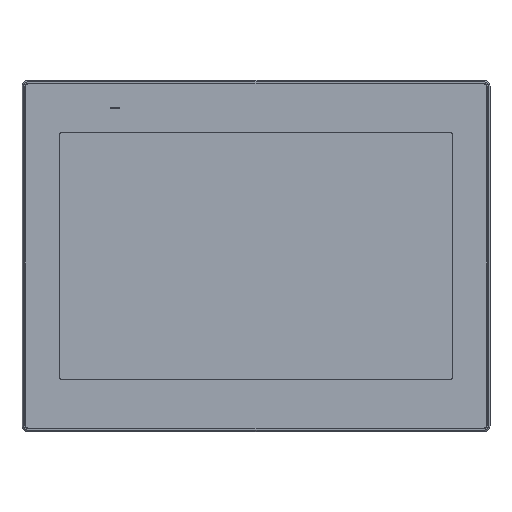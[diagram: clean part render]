
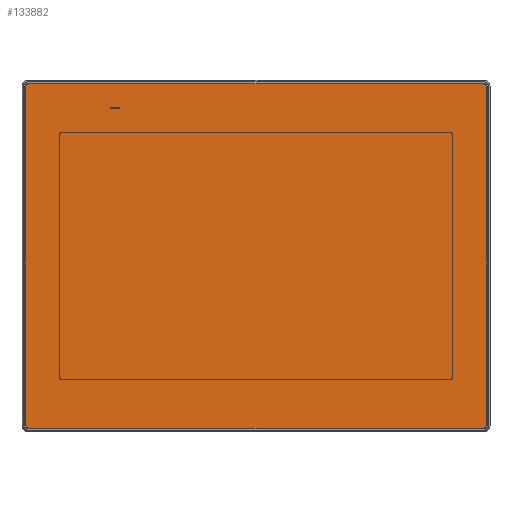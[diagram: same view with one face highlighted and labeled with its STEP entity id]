
A CAD part, top view. The second image highlights one B-rep face of the part: STEP entity #133882.
In plain terms, the highlighted planar face has unit normal (0, 0, 1).
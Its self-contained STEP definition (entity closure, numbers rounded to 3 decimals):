
#14159=CARTESIAN_POINT('',(-152.15,113.15,5.848));
#14160=DIRECTION('',(0.,0.,-1.));
#14161=DIRECTION('',(-1.,0.,0.));
#14162=AXIS2_PLACEMENT_3D('',#14159,#14160,#14161);
#14164=DIRECTION('',(1.,0.,0.));
#14165=VECTOR('',#14164,304.3);
#14166=CARTESIAN_POINT('',(-152.15,115.15,5.848));
#14167=LINE('',#14166,#14165);
#14168=CARTESIAN_POINT('',(152.15,113.15,5.848));
#14169=DIRECTION('',(0.,0.,-1.));
#14170=DIRECTION('',(0.,1.,0.));
#14171=AXIS2_PLACEMENT_3D('',#14168,#14169,#14170);
#14173=DIRECTION('',(0.,-1.,0.));
#14174=VECTOR('',#14173,226.3);
#14175=CARTESIAN_POINT('',(154.15,113.15,5.848));
#14176=LINE('',#14175,#14174);
#14177=CARTESIAN_POINT('',(152.15,-113.15,5.848));
#14178=DIRECTION('',(0.,0.,-1.));
#14179=DIRECTION('',(1.,0.,0.));
#14180=AXIS2_PLACEMENT_3D('',#14177,#14178,#14179);
#14182=DIRECTION('',(-1.,0.,0.));
#14183=VECTOR('',#14182,304.3);
#14184=CARTESIAN_POINT('',(152.15,-115.15,5.848));
#14185=LINE('',#14184,#14183);
#14186=CARTESIAN_POINT('',(-152.15,-113.15,5.848));
#14187=DIRECTION('',(0.,0.,-1.));
#14188=DIRECTION('',(0.,-1.,0.));
#14189=AXIS2_PLACEMENT_3D('',#14186,#14187,#14188);
#14191=DIRECTION('',(0.,1.,0.));
#14192=VECTOR('',#14191,226.3);
#14193=CARTESIAN_POINT('',(-154.15,-113.15,5.848));
#14194=LINE('',#14193,#14192);
#14195=DIRECTION('',(-1.,0.,0.));
#14196=VECTOR('',#14195,6.5);
#14197=CARTESIAN_POINT('',(-91.01,98.5,5.848));
#14198=LINE('',#14197,#14196);
#14203=DIRECTION('',(0.,-1.,0.));
#14204=VECTOR('',#14203,1.);
#14205=CARTESIAN_POINT('',(-91.01,99.5,5.848));
#14206=LINE('',#14205,#14204);
#14215=DIRECTION('',(0.,1.,0.));
#14216=VECTOR('',#14215,1.);
#14217=CARTESIAN_POINT('',(-97.51,98.5,5.848));
#14218=LINE('',#14217,#14216);
#14239=DIRECTION('',(1.,0.,0.));
#14240=VECTOR('',#14239,6.5);
#14241=CARTESIAN_POINT('',(-97.51,99.5,5.848));
#14242=LINE('',#14241,#14240);
#98946=CARTESIAN_POINT('',(-152.15,115.15,5.848));
#98947=VERTEX_POINT('',#98946);
#98948=CARTESIAN_POINT('',(-154.15,113.15,5.848));
#98949=VERTEX_POINT('',#98948);
#98950=CARTESIAN_POINT('',(152.15,115.15,5.848));
#98951=VERTEX_POINT('',#98950);
#98952=CARTESIAN_POINT('',(154.15,113.15,5.848));
#98953=VERTEX_POINT('',#98952);
#98954=CARTESIAN_POINT('',(154.15,-113.15,5.848));
#98955=VERTEX_POINT('',#98954);
#98956=CARTESIAN_POINT('',(152.15,-115.15,5.848));
#98957=VERTEX_POINT('',#98956);
#98958=CARTESIAN_POINT('',(-152.15,-115.15,5.848));
#98959=VERTEX_POINT('',#98958);
#98960=CARTESIAN_POINT('',(-154.15,-113.15,5.848));
#98961=VERTEX_POINT('',#98960);
#98962=CARTESIAN_POINT('',(-91.01,98.5,5.848));
#98963=CARTESIAN_POINT('',(-97.51,98.5,5.848));
#98964=VERTEX_POINT('',#98962);
#98965=VERTEX_POINT('',#98963);
#98966=CARTESIAN_POINT('',(-91.01,99.5,5.848));
#98967=VERTEX_POINT('',#98966);
#98968=CARTESIAN_POINT('',(-97.51,99.5,5.848));
#98969=VERTEX_POINT('',#98968);
#133857=CARTESIAN_POINT('',(0.,0.,5.848));
#133858=DIRECTION('',(0.,0.,1.));
#133859=DIRECTION('',(1.,0.,0.));
#133860=AXIS2_PLACEMENT_3D('',#133857,#133858,#133859);
#133861=PLANE('',#133860);
#133862=ORIENTED_EDGE('',*,*,#133753,.T.);
#133863=ORIENTED_EDGE('',*,*,#133768,.T.);
#133864=ORIENTED_EDGE('',*,*,#133782,.T.);
#133865=ORIENTED_EDGE('',*,*,#133796,.T.);
#133866=ORIENTED_EDGE('',*,*,#133810,.T.);
#133867=ORIENTED_EDGE('',*,*,#133824,.T.);
#133868=ORIENTED_EDGE('',*,*,#133838,.T.);
#133869=ORIENTED_EDGE('',*,*,#133851,.T.);
#133870=EDGE_LOOP('',(#133862,#133863,#133864,#133865,#133866,#133867,#133868,
#133869));
#133871=FACE_OUTER_BOUND('',#133870,.F.);
#133873=ORIENTED_EDGE('',*,*,#133872,.F.);
#133875=ORIENTED_EDGE('',*,*,#133874,.F.);
#133877=ORIENTED_EDGE('',*,*,#133876,.F.);
#133879=ORIENTED_EDGE('',*,*,#133878,.F.);
#133880=EDGE_LOOP('',(#133873,#133875,#133877,#133879));
#133881=FACE_BOUND('',#133880,.F.);
#133882=ADVANCED_FACE('',(#133871,#133881),#133861,.T.);
#14163=CIRCLE('',#14162,2.);
#14172=CIRCLE('',#14171,2.);
#14181=CIRCLE('',#14180,2.);
#14190=CIRCLE('',#14189,2.);
#133753=EDGE_CURVE('',#98949,#98947,#14163,.T.);
#133768=EDGE_CURVE('',#98947,#98951,#14167,.T.);
#133782=EDGE_CURVE('',#98951,#98953,#14172,.T.);
#133796=EDGE_CURVE('',#98953,#98955,#14176,.T.);
#133810=EDGE_CURVE('',#98955,#98957,#14181,.T.);
#133824=EDGE_CURVE('',#98957,#98959,#14185,.T.);
#133838=EDGE_CURVE('',#98959,#98961,#14190,.T.);
#133851=EDGE_CURVE('',#98961,#98949,#14194,.T.);
#133872=EDGE_CURVE('',#98964,#98965,#14198,.T.);
#133874=EDGE_CURVE('',#98967,#98964,#14206,.T.);
#133876=EDGE_CURVE('',#98969,#98967,#14242,.T.);
#133878=EDGE_CURVE('',#98965,#98969,#14218,.T.);
